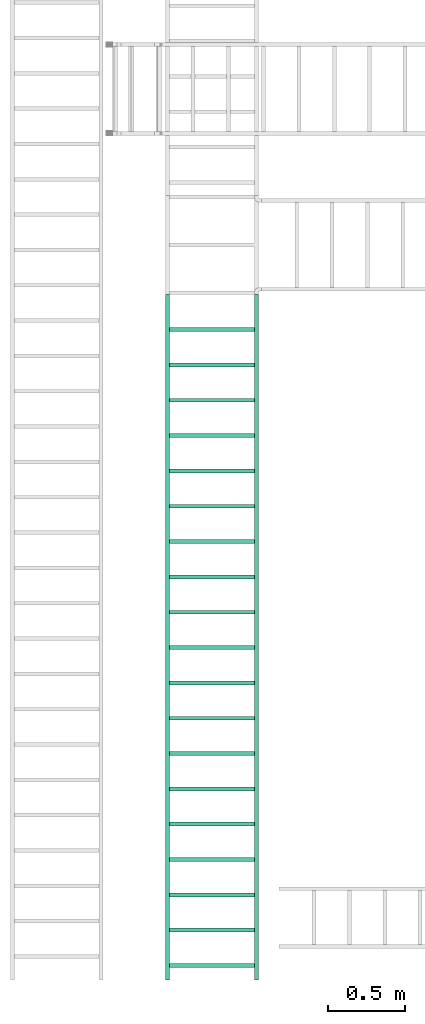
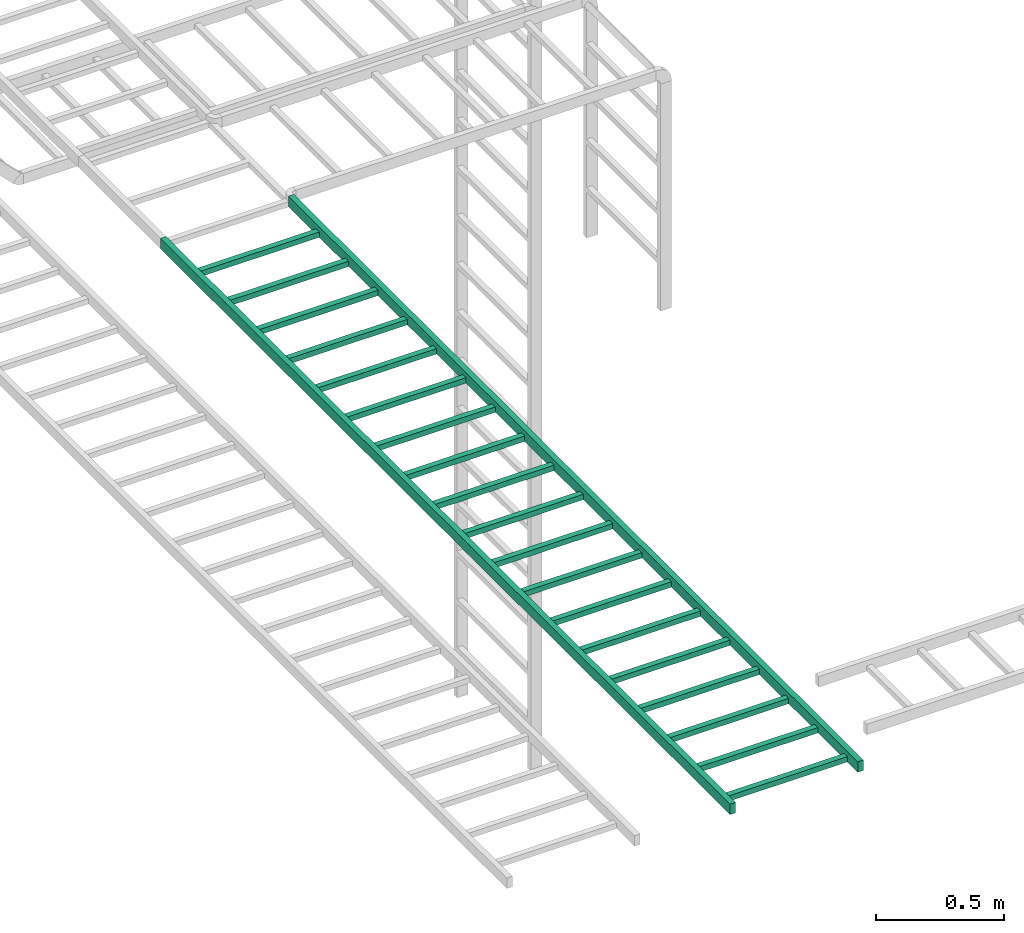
# One storey, part 2 of 6: 1 flow segment.
"""IFC2X3 building model written with IfcOpenShell, lengths in millimetres."""

from ifc_helpers import new_model, entity, si_unit, converted_unit, derived_unit, direction, frame, place, context, subcontext, project, spatial, faceted_brep, type_object, element, save


model = new_model("IFC2X3")

# Units and contexts
model_context = context("Model", 3, precision=0.01, world=frame((0.0, 4.29681676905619e-09, 0.0)), true_north=direction((4.01073788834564e-13, 1.0)))
plan_context = context("Plan", 3, precision=0.01, world=frame((0.0, 4.29681676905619e-09, 0.0)), true_north=direction((4.01073788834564e-13, 1.0)))
body_context = subcontext(model_context, "Body", "Model", "MODEL_VIEW")
ifc_project = project(units=[converted_unit("PLANEANGLEUNIT", "DEGREE", entity("IfcPositiveLengthMeasure", 0.0174532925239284), si_unit("PLANEANGLEUNIT", "RADIAN"), dimensions=[0, 0, 0, 0, 0, 0, 0]), si_unit("AREAUNIT", "SQUARE_METRE"), si_unit("LENGTHUNIT", "METRE", prefix="MILLI"), si_unit("MASSUNIT", "GRAM", prefix="KILO"), si_unit("POWERUNIT", "WATT"), si_unit("PRESSUREUNIT", "PASCAL", prefix="KILO"), si_unit("FORCEUNIT", "NEWTON", prefix="KILO"), si_unit("ELECTRICVOLTAGEUNIT", "VOLT"), si_unit("ELECTRICCURRENTUNIT", "AMPERE"), si_unit("THERMODYNAMICTEMPERATUREUNIT", "DEGREE_CELSIUS"), si_unit("TIMEUNIT", "SECOND"), si_unit("VOLUMEUNIT", "CUBIC_METRE"), derived_unit("LINEARVELOCITYUNIT", [(si_unit("LENGTHUNIT", "METRE"), 1), (si_unit("TIMEUNIT", "SECOND"), -1)]), derived_unit("VOLUMETRICFLOWRATEUNIT", [(si_unit("VOLUMEUNIT", "CUBIC_METRE"), 1), (si_unit("TIMEUNIT", "SECOND"), -1)]), derived_unit("THERMALTRANSMITTANCEUNIT", [(si_unit("POWERUNIT", "WATT"), 1), (si_unit("THERMODYNAMICTEMPERATUREUNIT", "KELVIN"), -1), (si_unit("AREAUNIT", "SQUARE_METRE"), -1)]), derived_unit("SOUNDPRESSUREUNIT", [(si_unit("PRESSUREUNIT", "PASCAL"), 1)])], contexts=[model_context, plan_context])

# Site, building, storey
site_placement = place(None, frame((0.0, -4.29681676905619e-09, 0.0), z_axis=(0.0, 0.0, 1.0), x_axis=(1.0, 0.0, 0.0)))
site = spatial("IfcSite", under=ifc_project, at=site_placement, Name="ENGM", CompositionType="ELEMENT")
building_placement = place(site_placement, frame((0.0, 4.29681676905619e-09, 0.0), z_axis=(0.0, 0.0, 1.0), x_axis=(1.0, 0.0, 0.0)))
building = spatial("IfcBuilding", under=site, at=building_placement, Name="TS", CompositionType="ELEMENT")
storey_placement = place(building_placement, frame((0.0, 0.0, 210900.0), z_axis=(0.0, 0.0, 1.0), x_axis=(1.0, 0.0, 0.0)))
storey = spatial("IfcBuildingStorey", under=building, at=storey_placement, Name="Nivå F", CompositionType="ELEMENT", Elevation=210900.0)

# Flow segment
cable_carrier_segment_type = type_object("IfcCableCarrierSegmentType", Name="Kabelbro", PredefinedType="CABLELADDERSEGMENT")
flow_segment_placement = place(storey_placement, frame((717167.4114, 438936.15201, 3925.0), z_axis=(0.0, 0.0, 1.0), x_axis=(0.0, -1.0, 0.0)))
element("IfcFlowSegment", 1, at=flow_segment_placement, inside=storey, type_object=cable_carrier_segment_type, Name="Kabelbro", context=body_context, shape_type="Brep", body=[
    faceted_brep([(241.30001, 274.60001, 0.4), (241.30001, -274.60001, -25.0), (241.30001, -274.60001, 0.4), (241.30001, 274.60001, -25.0), (215.89999, 274.60001, 0.4), (215.89999, -274.60001, 0.4), (215.89999, 274.60001, -25.0), (215.89999, -274.60001, -25.0), (469.89999, 274.60001, 0.4), (469.89999, -274.60001, -25.0), (469.89999, -274.60001, 0.4), (469.89999, 274.60001, -25.0), (444.50001, 274.60001, 0.4), (444.50001, -274.60001, 0.4), (444.50001, 274.60001, -25.0), (444.50001, -274.60001, -25.0), (698.50002, 274.60001, 0.4), (698.50002, -274.60001, -25.0), (698.50002, -274.60001, 0.4), (698.50002, 274.60001, -25.0), (673.09998, 274.60001, 0.4), (673.09998, -274.60001, 0.4), (673.09998, 274.60001, -25.0), (673.09998, -274.60001, -25.0), (927.10002, 274.60001, 0.4), (927.10002, -274.60001, -25.0), (927.10002, -274.60001, 0.4), (927.10002, 274.60001, -25.0), (901.69998, 274.60001, 0.4), (901.69998, -274.60001, 0.4), (901.69998, 274.60001, -25.0), (901.69998, -274.60001, -25.0), (1155.70002, 274.60001, 0.4), (1155.70002, -274.60001, -25.0), (1155.70002, -274.60001, 0.4), (1155.70002, 274.60001, -25.0), (1130.29998, 274.60001, 0.4), (1130.29998, -274.60001, 0.4), (1130.29998, 274.60001, -25.0), (1130.29998, -274.60001, -25.0), (1384.29995, 274.60001, 0.4), (1384.29995, -274.60001, -25.0), (1384.29995, -274.60001, 0.4), (1384.29995, 274.60001, -25.0), (1358.90005, 274.60001, 0.4), (1358.90005, -274.60001, 0.4), (1358.90005, 274.60001, -25.0), (1358.90005, -274.60001, -25.0), (1612.89995, 274.60001, 0.4), (1612.89995, -274.60001, -25.0), (1612.89995, -274.60001, 0.4), (1612.89995, 274.60001, -25.0), (1587.50005, 274.60001, 0.4), (1587.50005, -274.60001, 0.4), (1587.50005, 274.60001, -25.0), (1587.50005, -274.60001, -25.0), (1841.49995, 274.60001, 0.4), (1841.49995, -274.60001, -25.0), (1841.49995, -274.60001, 0.4), (1841.49995, 274.60001, -25.0), (1816.10005, 274.60001, 0.4), (1816.10005, -274.60001, 0.4), (1816.10005, 274.60001, -25.0), (1816.10005, -274.60001, -25.0), (2070.09995, 274.60001, 0.4), (2070.09995, -274.60001, -25.0), (2070.09995, -274.60001, 0.4), (2070.09995, 274.60001, -25.0), (2044.70005, 274.60001, 0.4), (2044.70005, -274.60001, 0.4), (2044.70005, 274.60001, -25.0), (2044.70005, -274.60001, -25.0), (2298.69995, 274.60001, 0.4), (2298.69995, -274.60001, -25.0), (2298.69995, -274.60001, 0.4), (2298.69995, 274.60001, -25.0), (2273.30005, 274.60001, 0.4), (2273.30005, -274.60001, 0.4), (2273.30005, 274.60001, -25.0), (2273.30005, -274.60001, -25.0), (2527.3001, 274.60001, 0.4), (2527.3001, -274.60001, -25.0), (2527.3001, -274.60001, 0.4), (2527.3001, 274.60001, -25.0), (2501.8999, 274.60001, 0.4), (2501.8999, -274.60001, 0.4), (2501.8999, 274.60001, -25.0), (2501.8999, -274.60001, -25.0), (2755.9001, 274.60001, 0.4), (2755.9001, -274.60001, -25.0), (2755.9001, -274.60001, 0.4), (2755.9001, 274.60001, -25.0), (2730.4999, 274.60001, 0.4), (2730.4999, -274.60001, 0.4), (2730.4999, 274.60001, -25.0), (2730.4999, -274.60001, -25.0), (2984.5001, 274.60001, 0.4), (2984.5001, -274.60001, -25.0), (2984.5001, -274.60001, 0.4), (2984.5001, 274.60001, -25.0), (2959.0999, 274.60001, 0.4), (2959.0999, -274.60001, 0.4), (2959.0999, 274.60001, -25.0), (2959.0999, -274.60001, -25.0), (3213.1001, 274.60001, 0.4), (3213.1001, -274.60001, -25.0), (3213.1001, -274.60001, 0.4), (3213.1001, 274.60001, -25.0), (3187.6999, 274.60001, 0.4), (3187.6999, -274.60001, 0.4), (3187.6999, 274.60001, -25.0), (3187.6999, -274.60001, -25.0), (3441.7001, 274.60001, 0.4), (3441.7001, -274.60001, -25.0), (3441.7001, -274.60001, 0.4), (3441.7001, 274.60001, -25.0), (3416.2999, 274.60001, 0.4), (3416.2999, -274.60001, 0.4), (3416.2999, 274.60001, -25.0), (3416.2999, -274.60001, -25.0), (3670.3001, 274.60001, 0.4), (3670.3001, -274.60001, -25.0), (3670.3001, -274.60001, 0.4), (3670.3001, 274.60001, -25.0), (3644.8999, 274.60001, 0.4), (3644.8999, -274.60001, 0.4), (3644.8999, 274.60001, -25.0), (3644.8999, -274.60001, -25.0), (3898.9001, 274.60001, 0.4), (3898.9001, -274.60001, -25.0), (3898.9001, -274.60001, 0.4), (3898.9001, 274.60001, -25.0), (3873.4999, 274.60001, 0.4), (3873.4999, -274.60001, 0.4), (3873.4999, 274.60001, -25.0), (3873.4999, -274.60001, -25.0), (4127.5001, 274.60001, 0.4), (4127.5001, -274.60001, -25.0), (4127.5001, -274.60001, 0.4), (4127.5001, 274.60001, -25.0), (4102.0999, 274.60001, 0.4), (4102.0999, -274.60001, 0.4), (4102.0999, 274.60001, -25.0), (4102.0999, -274.60001, -25.0), (4356.1001, 274.60001, 0.4), (4356.1001, -274.60001, -25.0), (4356.1001, -274.60001, 0.4), (4356.1001, 274.60001, -25.0), (4330.6999, 274.60001, 0.4), (4330.6999, -274.60001, 0.4), (4330.6999, 274.60001, -25.0), (4330.6999, -274.60001, -25.0), (0.0, -300.0, -25.0), (0.0, -274.60001, -25.0), (0.0, -300.0, 25.0), (0.0, -274.60001, 25.0), (0.0, 274.60001, -25.0), (0.0, 300.0, -25.0), (0.0, 274.60001, 25.0), (0.0, 300.0, 25.0), (4437.14402119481, -300.0, -17.7476693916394), (4437.14402119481, -300.0, -25.0), (4437.14402119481, -300.0, 25.0), (4437.14402119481, -296.315817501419, 25.0), (4437.14402119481, -274.60001, 25.0), (4437.14402119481, -274.60001, 17.7476693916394), (4437.14402119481, -274.60001, -25.0), (4437.14402119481, -278.284192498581, -25.0), (4437.14402119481, 300.0, 17.7476693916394), (4437.14402119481, 300.0, 25.0), (4437.14402119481, 300.0, -25.0), (4437.14402119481, 296.315817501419, -25.0), (4437.14402119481, 274.60001, -25.0), (4437.14402119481, 274.60001, -17.7476693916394), (4437.14402119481, 274.60001, 25.0), (4437.14402119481, 278.284192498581, 25.0)], [[[0, 1, 2]], [[1, 0, 3]], [[4, 2, 5]], [[2, 4, 0]], [[6, 5, 7]], [[5, 6, 4]], [[3, 7, 1]], [[7, 3, 6]], [[8, 9, 10]], [[9, 8, 11]], [[12, 10, 13]], [[10, 12, 8]], [[14, 13, 15]], [[13, 14, 12]], [[11, 15, 9]], [[15, 11, 14]], [[16, 17, 18]], [[17, 16, 19]], [[20, 18, 21]], [[18, 20, 16]], [[22, 21, 23]], [[21, 22, 20]], [[19, 23, 17]], [[23, 19, 22]], [[24, 25, 26]], [[25, 24, 27]], [[28, 26, 29]], [[26, 28, 24]], [[30, 29, 31]], [[29, 30, 28]], [[27, 31, 25]], [[31, 27, 30]], [[32, 33, 34]], [[33, 32, 35]], [[36, 34, 37]], [[34, 36, 32]], [[38, 37, 39]], [[37, 38, 36]], [[35, 39, 33]], [[39, 35, 38]], [[40, 41, 42]], [[41, 40, 43]], [[44, 42, 45]], [[42, 44, 40]], [[46, 45, 47]], [[45, 46, 44]], [[43, 47, 41]], [[47, 43, 46]], [[48, 49, 50]], [[49, 48, 51]], [[52, 50, 53]], [[50, 52, 48]], [[54, 53, 55]], [[53, 54, 52]], [[51, 55, 49]], [[55, 51, 54]], [[56, 57, 58]], [[57, 56, 59]], [[60, 58, 61]], [[58, 60, 56]], [[62, 61, 63]], [[61, 62, 60]], [[59, 63, 57]], [[63, 59, 62]], [[64, 65, 66]], [[65, 64, 67]], [[68, 66, 69]], [[66, 68, 64]], [[70, 69, 71]], [[69, 70, 68]], [[67, 71, 65]], [[71, 67, 70]], [[72, 73, 74]], [[73, 72, 75]], [[76, 74, 77]], [[74, 76, 72]], [[78, 77, 79]], [[77, 78, 76]], [[75, 79, 73]], [[79, 75, 78]], [[80, 81, 82]], [[81, 80, 83]], [[84, 82, 85]], [[82, 84, 80]], [[86, 85, 87]], [[85, 86, 84]], [[83, 87, 81]], [[87, 83, 86]], [[88, 89, 90]], [[89, 88, 91]], [[92, 90, 93]], [[90, 92, 88]], [[94, 93, 95]], [[93, 94, 92]], [[91, 95, 89]], [[95, 91, 94]], [[96, 97, 98]], [[97, 96, 99]], [[100, 98, 101]], [[98, 100, 96]], [[102, 101, 103]], [[101, 102, 100]], [[99, 103, 97]], [[103, 99, 102]], [[104, 105, 106]], [[105, 104, 107]], [[108, 106, 109]], [[106, 108, 104]], [[110, 109, 111]], [[109, 110, 108]], [[107, 111, 105]], [[111, 107, 110]], [[112, 113, 114]], [[113, 112, 115]], [[116, 114, 117]], [[114, 116, 112]], [[118, 117, 119]], [[117, 118, 116]], [[115, 119, 113]], [[119, 115, 118]], [[120, 121, 122]], [[121, 120, 123]], [[124, 122, 125]], [[122, 124, 120]], [[126, 125, 127]], [[125, 126, 124]], [[123, 127, 121]], [[127, 123, 126]], [[128, 129, 130]], [[129, 128, 131]], [[132, 130, 133]], [[130, 132, 128]], [[134, 133, 135]], [[133, 134, 132]], [[131, 135, 129]], [[135, 131, 134]], [[136, 137, 138]], [[137, 136, 139]], [[140, 138, 141]], [[138, 140, 136]], [[142, 141, 143]], [[141, 142, 140]], [[139, 143, 137]], [[143, 139, 142]], [[144, 145, 146]], [[145, 144, 147]], [[148, 146, 149]], [[146, 148, 144]], [[150, 149, 151]], [[149, 150, 148]], [[147, 151, 145]], [[151, 147, 150]], [[152, 153, 154]], [[155, 154, 153]], [[156, 157, 158]], [[159, 158, 157]], [[2, 1, 7]], [[7, 5, 2]], [[6, 3, 0]], [[0, 4, 6]], [[10, 9, 15]], [[15, 13, 10]], [[14, 11, 8]], [[8, 12, 14]], [[18, 17, 23]], [[23, 21, 18]], [[22, 19, 16]], [[16, 20, 22]], [[26, 25, 31]], [[31, 29, 26]], [[30, 27, 24]], [[24, 28, 30]], [[34, 33, 39]], [[39, 37, 34]], [[38, 35, 32]], [[32, 36, 38]], [[42, 41, 47]], [[47, 45, 42]], [[46, 43, 40]], [[40, 44, 46]], [[50, 49, 55]], [[55, 53, 50]], [[54, 51, 48]], [[48, 52, 54]], [[58, 57, 63]], [[63, 61, 58]], [[62, 59, 56]], [[56, 60, 62]], [[66, 65, 71]], [[71, 69, 66]], [[70, 67, 64]], [[64, 68, 70]], [[74, 73, 79]], [[79, 77, 74]], [[78, 75, 72]], [[72, 76, 78]], [[82, 81, 87]], [[87, 85, 82]], [[86, 83, 80]], [[80, 84, 86]], [[90, 89, 95]], [[95, 93, 90]], [[94, 91, 88]], [[88, 92, 94]], [[98, 97, 103]], [[103, 101, 98]], [[102, 99, 96]], [[96, 100, 102]], [[106, 105, 111]], [[111, 109, 106]], [[110, 107, 104]], [[104, 108, 110]], [[114, 113, 119]], [[119, 117, 114]], [[118, 115, 112]], [[112, 116, 118]], [[122, 121, 127]], [[127, 125, 122]], [[126, 123, 120]], [[120, 124, 126]], [[130, 129, 135]], [[135, 133, 130]], [[134, 131, 128]], [[128, 132, 134]], [[138, 137, 143]], [[143, 141, 138]], [[142, 139, 136]], [[136, 140, 142]], [[146, 145, 151]], [[151, 149, 146]], [[150, 147, 144]], [[144, 148, 150]], [[160, 161, 152, 154]], [[162, 160, 154]], [[163, 162, 154, 155]], [[164, 163, 155]], [[165, 164, 155, 153]], [[166, 165, 153]], [[167, 166, 153, 152]], [[161, 167, 152]], [[168, 169, 159, 157]], [[170, 168, 157]], [[171, 170, 157, 156]], [[172, 171, 156]], [[173, 172, 156, 158]], [[174, 173, 158]], [[175, 174, 158, 159]], [[169, 175, 159]], [[162, 163, 164, 165, 166, 167, 161, 160]], [[170, 171, 172, 173, 174, 175, 169, 168]]], orient=[[False], [False], [False], [False], [False], [False], [False], [False], [False], [False], [False], [False], [False], [False], [False], [False], [False], [False], [False], [False], [False], [False], [False], [False], [False], [False], [False], [False], [False], [False], [False], [False], [False], [False], [False], [False], [False], [False], [False], [False], [False], [False], [False], [False], [False], [False], [False], [False], [False], [False], [False], [False], [False], [False], [False], [False], [False], [False], [False], [False], [False], [False], [False], [False], [False], [False], [False], [False], [False], [False], [False], [False], [False], [False], [False], [False], [False], [False], [False], [False], [False], [False], [False], [False], [False], [False], [False], [False], [False], [False], [False], [False], [False], [False], [False], [False], [False], [False], [False], [False], [False], [False], [False], [False], [False], [False], [False], [False], [False], [False], [False], [False], [False], [False], [False], [False], [False], [False], [False], [False], [False], [False], [False], [False], [False], [False], [False], [False], [False], [False], [False], [False], [False], [False], [False], [False], [False], [False], [False], [False], [False], [False], [False], [False], [False], [False], [False], [False], [False], [False], [False], [False], [False], [False], [False], [False], [False], [False], [False], [False], [False], [False], [False], [False], [False], [False], [False], [False], [False], [False], [False], [False], [False], [False], [False], [False], [False], [False], [False], [False], [False], [False], [False], [False], [False], [False], [False], [False], [False], [False], [False], [False], [False], [False], [False], [False], [False], [False], [False], [False], [False], [False], [False], [False], [False], [False], [False], [False], [False], [False], [False], [False], [False], [False], [False], [False], [False], [False], [False], [False], [False], [False], [False], [False], [False], [False], [False], [False], [False], [False], [False], [False], [False], [False], [False], [False], [False], [False], [False], [False], [False], [False], [False], [False], [False], [False], [False], [False], [False], [False]]),
])

save(model, "model.ifc")
